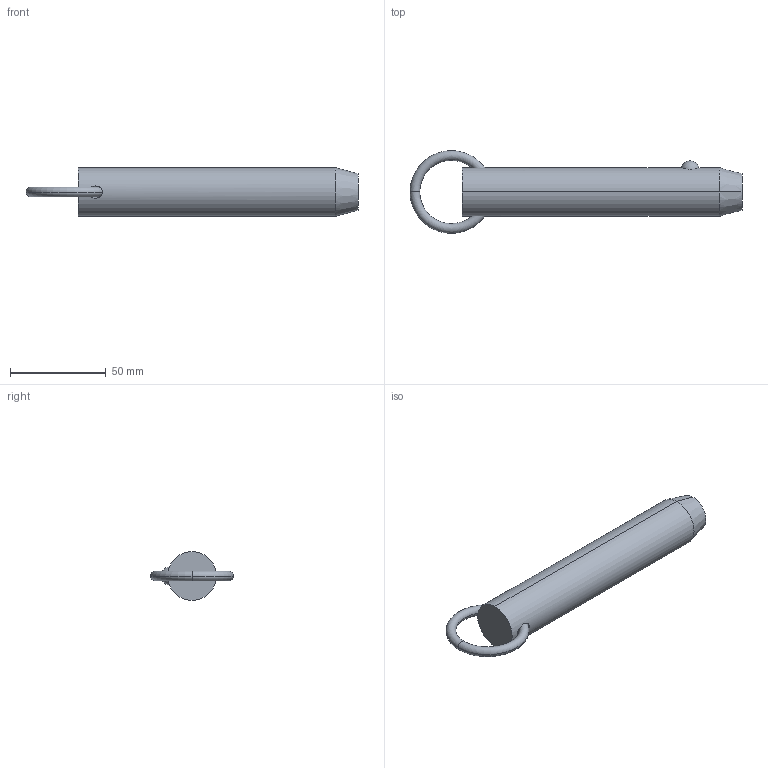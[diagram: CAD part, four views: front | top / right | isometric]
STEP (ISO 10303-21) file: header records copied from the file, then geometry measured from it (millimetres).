
FILE_DESCRIPTION (( 'STEP AP203' ), '1' );
FILE_NAME ('33010.W1040.step', '2024-11-01T10:48:02', ( '' ), ( '' ), 'SwSTEP 2.0', 'SolidWorks 2019', '' );
FILE_SCHEMA (( 'CONFIG_CONTROL_DESIGN' ));
Length unit declared in the file: millimetre
Products named in the file (3): Part1_33010.W1040; 33010.W1040; Part2_33010.W1040
Assembly tree (2 placements, depth 2):
  33010.W1040
    Part1_33010.W1040
    Part2_33010.W1040
Bounding box: 173.18 x 43.18 x 25.4 mm (x, y, z)
Volume: 74340.4 mm3; surface area: 14778.8 mm2
Topology: 2 solids, 2 shells, 18 faces, 37 edges, 22 vertices
Faces by surface type: torus 8, plane 4, sphere 2, cone 2, cylinder 2
Entity records: 975 total; most frequent: CARTESIAN_POINT 280, DIRECTION 100, ORIENTED_EDGE 74, AXIS2_PLACEMENT_3D 48, EDGE_CURVE 37, PERSON_AND_ORGANIZATION 26, CIRCLE 25, VERTEX_POINT 22
